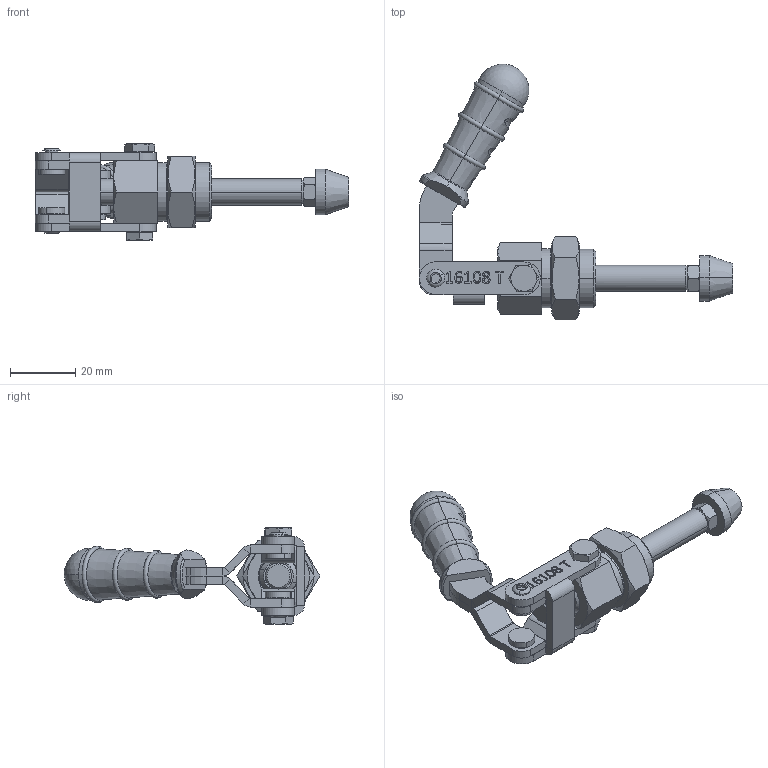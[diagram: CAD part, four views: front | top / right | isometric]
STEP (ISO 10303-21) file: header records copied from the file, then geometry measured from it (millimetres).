
FILE_DESCRIPTION (( 'STEP AP203' ), '1' );
FILE_NAME ('16008_T.STEP', '2022-11-28T05:54:14', ( '' ), ( '' ), 'SwSTEP 2.0', 'SolidWorks 2023', '' );
FILE_SCHEMA (( 'CONFIG_CONTROL_DESIGN' ));
Length unit declared in the file: millimetre
Products named in the file (14): Aynalama1601_Hareket Kolu_can_kucuk_Varsayılan; M4x5x10_Varsayılan; 1601_TozKeçeliAltıgenGovde_Varsayılan; M18x1_5x8 Somun_Varsayılan; 1601_Mafsal_Varsayılan; 1601_Hareket Kolu_can_kucuk_Varsayılan; C45 Tutamak_Varsayılan; 16008_T; Pim_4_5x15_5_Varsayılan; M5 Somun_Varsayılan; 1601_Cap8_Mil_Varsayılan; 1601_Pim_4x7_5_Varsayılan; KASTAS-K52-8X14_2X4-5_2_Varsayılan; M5 Baskı_Varsayılan
Assembly tree (16 placements, depth 2):
  16008_T
    1601_TozKeçeliAltıgenGovde_Varsayılan
    KASTAS-K52-8X14_2X4-5_2_Varsayılan  x2
    1601_Cap8_Mil_Varsayılan
    1601_Hareket Kolu_can_kucuk_Varsayılan
    1601_Mafsal_Varsayılan
    Pim_4_5x15_5_Varsayılan
    M18x1_5x8 Somun_Varsayılan
    M5 Baskı_Varsayılan
    M5 Somun_Varsayılan
    M4x5x10_Varsayılan  x2
    1601_Pim_4x7_5_Varsayılan  x2
    C45 Tutamak_Varsayılan
    Aynalama1601_Hareket Kolu_can_kucuk_Varsayılan
Bounding box: 95.9 x 78.3 x 29.6 mm (x, y, z)
Volume: 25622.6 mm3; surface area: 21044 mm2
Topology: 16 solids, 16 shells, 795 faces, 1914 edges, 1188 vertices
Faces by surface type: plane 354, cylinder 158, bspline 123, cone 114, torus 44, sphere 2
Entity records: 29704 total; most frequent: CARTESIAN_POINT 12775, ORIENTED_EDGE 3310, DIRECTION 2928, EDGE_CURVE 1655, VERTEX_POINT 1032, AXIS2_PLACEMENT_3D 1011, LINE 906, VECTOR 906
